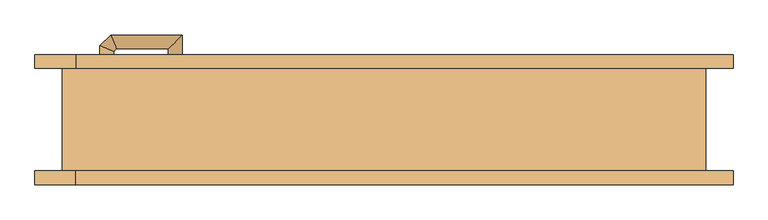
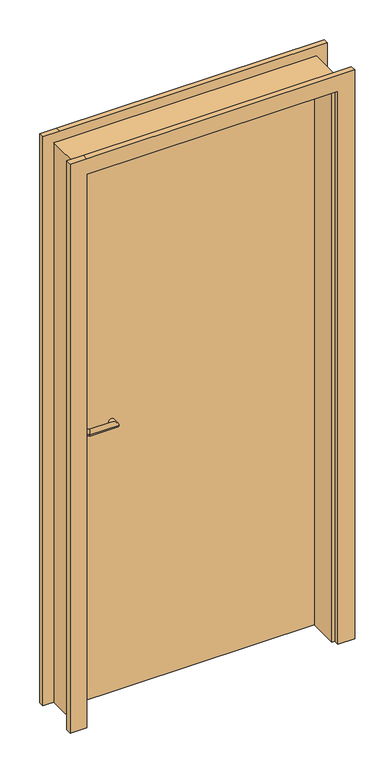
"""IFC4 building model written with IfcOpenShell, lengths in millimetres: door geometry, Porta acessivel 90cm-FLA : 90x210 (acessível s/ barra)."""

from ifc_helpers import new_model, si_unit, frame, origin, origin_with_axes, place, context, project, spatial, polyline, circle_curve, ellipse_curve, outline, extrude, faceted_brep, source, transform, mapped, element, save
from ifc_brep_helpers import plane_surface, cylinder_surface, advanced_brep


def door_7d303a18(model_context):
    return source(origin(), model_context, "Body", "SolidModel", [
        faceted_brep([(-477.5, 75.0, 2120.0), (-477.5, -75.0, 2120.0), (462.5, -75.0, 2120.0), (462.5, 75.0, 2120.0), (-457.5, 75.0, 0.0), (-457.5, 33.8, 0.0), (-447.5, 33.8, 0.0), (-447.5, -75.0, 0.0), (-477.5, -75.0, 0.0), (-477.5, 75.0, 0.0), (462.5, 75.0, 0.0), (442.5, 75.0, 0.0), (442.5, 75.0, 2100.0), (-457.5, 75.0, 2100.0), (-447.5, -75.0, 2090.0), (432.5, -75.0, 2090.0), (432.5, -75.0, 0.0), (462.5, -75.0, 0.0), (-447.5, 33.8, 2100.0), (-447.5, 31.4, 2100.0), (-447.5, 31.4, 2090.0), (-457.5, 33.8, 2100.0), (432.5, 33.8, 0.0), (442.5, 33.8, 0.0), (442.5, 33.8, 2100.0), (432.5, 33.8, 2100.0), (432.5, 31.4, 2090.0), (432.5, 31.4, 2100.0)], [[[0, 1, 2, 3]], [[4, 5, 6, 7, 8, 9]], [[0, 3, 10, 11, 12, 13, 4, 9]], [[1, 0, 9, 8]], [[8, 7, 14, 15, 16, 17, 2, 1]], [[7, 6, 18, 19, 20, 14]], [[6, 5, 21, 18]], [[5, 4, 13, 21]], [[11, 10, 17, 16, 22, 23]], [[11, 23, 24, 12]], [[23, 22, 25, 24]], [[22, 16, 15, 26, 27, 25]], [[3, 2, 17, 10]], [[13, 12, 24, 25, 27, 19, 18, 21]], [[19, 27, 26, 20]], [[15, 14, 20, 26]]]),
        extrude(outline(polyline([(2096.0, -457.5), (2096.0, 442.5), (0.0, 442.5), (0.0, 502.5), (2096.0, 502.5), (2156.0, 502.5), (2156.0, -457.5), (2156.0, -517.5), (0.0, -517.5), (0.0, -457.5), (2096.0, -457.5)])), frame((0.0, -95.0, 0.0), z_axis=(0.0, 1.0, 0.0), x_axis=(0.0, 0.0, 1.0)), (0.0, 0.0, 1.0), 20.0),
        extrude(outline(polyline([(2096.0, -457.5), (2096.0, 442.5), (0.0, 442.5), (0.0, 502.5), (2096.0, 502.5), (2156.0, 502.5), (2156.0, -457.5), (2156.0, -517.5), (0.0, -517.5), (0.0, -457.5), (2096.0, -457.5)])), frame((0.0, 75.0, 0.0), z_axis=(0.0, 1.0, 0.0), x_axis=(0.0, 0.0, 1.0)), (0.0, 0.0, 1.0), 20.0),
        extrude(outline(polyline([(-457.5, 62.6), (442.5, 62.6), (442.5, 33.8), (-457.5, 33.8), (-457.5, 62.6)])), origin_with_axes(), (0.0, 0.0, 1.0), 2100.0),
        advanced_brep(
        [(-422.5, 33.8, 1050.0), (-402.5, 33.8, 1050.0), (-422.5, -10.3421356, 1050.0), (-402.5, -2.0578644, 1050.0), (-406.6421356, -26.2, 1050.0), (-398.3578644, -6.2, 1050.0), (-302.5, -26.2, 1050.0), (-322.5, -6.2, 1050.0), (-302.5, 3.8, 1050.0), (-322.5, 3.8, 1050.0)],
        [
            (0, 1, circle_curve(frame((-412.5, 33.8, 1050.0), z_axis=(0.0, 1.0, 0.0), x_axis=(1.0, 0.0, 0.0)), 10.0)),
            (1, 0, circle_curve(frame((-412.5, 33.8, 1050.0), z_axis=(0.0, 1.0, 0.0), x_axis=(1.0, 0.0, 0.0)), 10.0)),
            (0, 2),
            (2, 3, ellipse_curve(frame((-412.5, -6.2, 1050.0), z_axis=(-0.3826834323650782, 0.9238795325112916, 0.0), x_axis=(0.9238795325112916, 0.38268343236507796, 0.0)), 10.823922, 10.0)),
            (3, 1),
            (3, 2, ellipse_curve(frame((-412.5, -6.2, 1050.0), z_axis=(-0.3826834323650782, 0.9238795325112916, 0.0), x_axis=(0.9238795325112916, 0.38268343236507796, 0.0)), 10.823922, 10.0)),
            (2, 4),
            (4, 5, ellipse_curve(frame((-402.5, -16.2, 1050.0), z_axis=(-0.9238795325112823, 0.382683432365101, 0.0), x_axis=(0.38268343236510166, 0.9238795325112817, 0.0)), 10.823922, 10.0)),
            (5, 3),
            (5, 4, ellipse_curve(frame((-402.5, -16.2, 1050.0), z_axis=(-0.9238795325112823, 0.382683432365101, 0.0), x_axis=(0.38268343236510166, 0.9238795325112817, 0.0)), 10.823922, 10.0)),
            (4, 6),
            (6, 7, ellipse_curve(frame((-312.5, -16.2, 1050.0), z_axis=(-0.7071067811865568, -0.7071067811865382, 0.0), x_axis=(-0.7071067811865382, 0.7071067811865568, 0.0)), 14.1421356, 10.0)),
            (7, 5),
            (7, 6, ellipse_curve(frame((-312.5, -16.2, 1050.0), z_axis=(-0.7071067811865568, -0.7071067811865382, 0.0), x_axis=(-0.7071067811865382, 0.7071067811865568, 0.0)), 14.1421356, 10.0)),
            (8, 9, circle_curve(frame((-312.5, 3.8, 1050.0), z_axis=(0.0, 1.0, 0.0), x_axis=(-1.0, 0.0, 0.0)), 10.0)),
            (9, 8, circle_curve(frame((-312.5, 3.8, 1050.0), z_axis=(0.0, 1.0, 0.0), x_axis=(-1.0, 0.0, 0.0)), 10.0)),
            (6, 8),
            (9, 7),
        ],
        [
            plane_surface(frame((-412.5, 33.8, 0.0), z_axis=(0.0, 1.0, 0.0), x_axis=(0.0, 0.0, 1.0))),
            cylinder_surface(frame((-412.5, 33.8, 1050.0), z_axis=(0.0, 1.0, 0.0), x_axis=(1.0, 0.0, 0.0)), 10.0),
            cylinder_surface(frame((-412.5, -6.2, 1050.0), z_axis=(-0.7071067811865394, 0.7071067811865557, 0.0), x_axis=(0.7071067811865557, 0.7071067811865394, 0.0)), 10.0),
            cylinder_surface(frame((-402.5, -16.2, 1050.0), z_axis=(-1.0, 0.0, 0.0), x_axis=(0.0, 1.0, 0.0)), 10.0),
            plane_surface(frame((-312.5, 3.8, 0.0), z_axis=(0.0, 1.0, 0.0), x_axis=(0.0, 0.0, 1.0))),
            cylinder_surface(frame((-312.5, -16.2, 1050.0), z_axis=(0.0, -1.0, 0.0), x_axis=(-1.0, 0.0, 0.0)), 10.0),
        ],
        [
            (0, [[1, 2]]),
            (1, [[-1, 3, 4, 5]]),
            (1, [[-2, -5, 6, -3]]),
            (2, [[-4, 7, 8, 9]]),
            (2, [[-6, -9, 10, -7]]),
            (3, [[-8, 11, 12, 13]]),
            (3, [[-10, -13, 14, -11]]),
            (4, [[15, 16]]),
            (5, [[-12, 17, -16, 18]]),
            (5, [[-14, -18, -15, -17]]),
        ],
    ),
        advanced_brep(
        [(-402.5, 63.8, 1050.0), (-422.5, 63.8, 1050.0), (-402.5, 99.6578644, 1050.0), (-422.5, 107.9421356, 1050.0), (-398.3578644, 103.8, 1050.0), (-406.6421356, 123.8, 1050.0), (-322.5, 103.8, 1050.0), (-302.5, 123.8, 1050.0), (-322.5, 93.8, 1050.0), (-302.5, 93.8, 1050.0)],
        [
            (0, 1, circle_curve(frame((-412.5, 63.8, 1050.0), z_axis=(0.0, -1.0, 0.0), x_axis=(-1.0, 0.0, 0.0)), 10.0)),
            (1, 0, circle_curve(frame((-412.5, 63.8, 1050.0), z_axis=(0.0, -1.0, 0.0), x_axis=(-1.0, 0.0, 0.0)), 10.0)),
            (0, 2),
            (2, 3, ellipse_curve(frame((-412.5, 103.8, 1050.0), z_axis=(-0.382683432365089, -0.9238795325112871, 0.0), x_axis=(0.9238795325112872, -0.3826834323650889, 0.0)), 10.823922, 10.0)),
            (3, 1),
            (3, 2, ellipse_curve(frame((-412.5, 103.8, 1050.0), z_axis=(-0.382683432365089, -0.9238795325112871, 0.0), x_axis=(0.9238795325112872, -0.3826834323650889, 0.0)), 10.823922, 10.0)),
            (2, 4),
            (4, 5, ellipse_curve(frame((-402.5, 113.8, 1050.0), z_axis=(-0.9238795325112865, -0.3826834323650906, 0.0), x_axis=(0.38268343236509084, -0.9238795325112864, 0.0)), 10.823922, 10.0)),
            (5, 3),
            (5, 4, ellipse_curve(frame((-402.5, 113.8, 1050.0), z_axis=(-0.9238795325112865, -0.3826834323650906, 0.0), x_axis=(0.38268343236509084, -0.9238795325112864, 0.0)), 10.823922, 10.0)),
            (4, 6),
            (6, 7, ellipse_curve(frame((-312.5, 113.8, 1050.0), z_axis=(-0.7071067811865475, 0.7071067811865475, 0.0), x_axis=(-0.7071067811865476, -0.7071067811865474, 0.0)), 14.1421356, 10.0)),
            (7, 5),
            (7, 6, ellipse_curve(frame((-312.5, 113.8, 1050.0), z_axis=(-0.7071067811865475, 0.7071067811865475, 0.0), x_axis=(-0.7071067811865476, -0.7071067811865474, 0.0)), 14.1421356, 10.0)),
            (8, 9, circle_curve(frame((-312.5, 93.8, 1050.0), z_axis=(0.0, -1.0, 0.0), x_axis=(1.0, 0.0, 0.0)), 10.0)),
            (9, 8, circle_curve(frame((-312.5, 93.8, 1050.0), z_axis=(0.0, -1.0, 0.0), x_axis=(1.0, 0.0, 0.0)), 10.0)),
            (6, 8),
            (9, 7),
        ],
        [
            plane_surface(frame((-412.5, 63.8, 0.0), z_axis=(0.0, -1.0, 0.0), x_axis=(0.0, 0.0, 1.0))),
            cylinder_surface(frame((-412.5, 63.8, 1050.0), z_axis=(0.0, -1.0, 0.0), x_axis=(-1.0, 0.0, 0.0)), 10.0),
            cylinder_surface(frame((-412.5, 103.8, 1050.0), z_axis=(-0.7071067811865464, -0.7071067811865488, 0.0), x_axis=(-0.7071067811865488, 0.7071067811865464, 0.0)), 10.0),
            cylinder_surface(frame((-402.5, 113.8, 1050.0), z_axis=(-1.0, 0.0, 0.0), x_axis=(0.0, 1.0, 0.0)), 10.0),
            plane_surface(frame((-312.5, 93.8, 0.0), z_axis=(0.0, -1.0, 0.0), x_axis=(0.0, 0.0, 1.0))),
            cylinder_surface(frame((-312.5, 113.8, 1050.0), z_axis=(0.0, 1.0, 0.0), x_axis=(1.0, 0.0, 0.0)), 10.0),
        ],
        [
            (0, [[1, 2]]),
            (1, [[-1, 3, 4, 5]]),
            (1, [[-2, -5, 6, -3]]),
            (2, [[-4, 7, 8, 9]]),
            (2, [[-6, -9, 10, -7]]),
            (3, [[-8, 11, 12, 13]]),
            (3, [[-10, -13, 14, -11]]),
            (4, [[15, 16]]),
            (5, [[-12, 17, -16, 18]]),
            (5, [[-14, -18, -15, -17]]),
        ],
    ),
    ])


if __name__ == "__main__":
    model = new_model("IFC4")
    model_context = context("Model", 3, world=origin())
    ifc_project = project(units=[si_unit("LENGTHUNIT", "METRE", prefix="MILLI")], contexts=[model_context])
    site = spatial("IfcSite", under=ifc_project)
    building = spatial("IfcBuilding", under=site)
    placement = place(None, origin())
    door_shape = door_7d303a18(model_context)
    element("IfcDoor", 1, ObjectType="Porta acessivel 90cm-FLA : 90x210 (acessível s/ barra)", at=placement, inside=building, context=model_context, shape_type="MappedRepresentation", body=[
        mapped(door_shape, transform((0.0, 0.0, 0.0), x_axis=(1.0, 0.0, 0.0), y_axis=(0.0, 1.0, 0.0), z_axis=(0.0, 0.0, 1.0))),
    ])
    save(model, "model.ifc")
